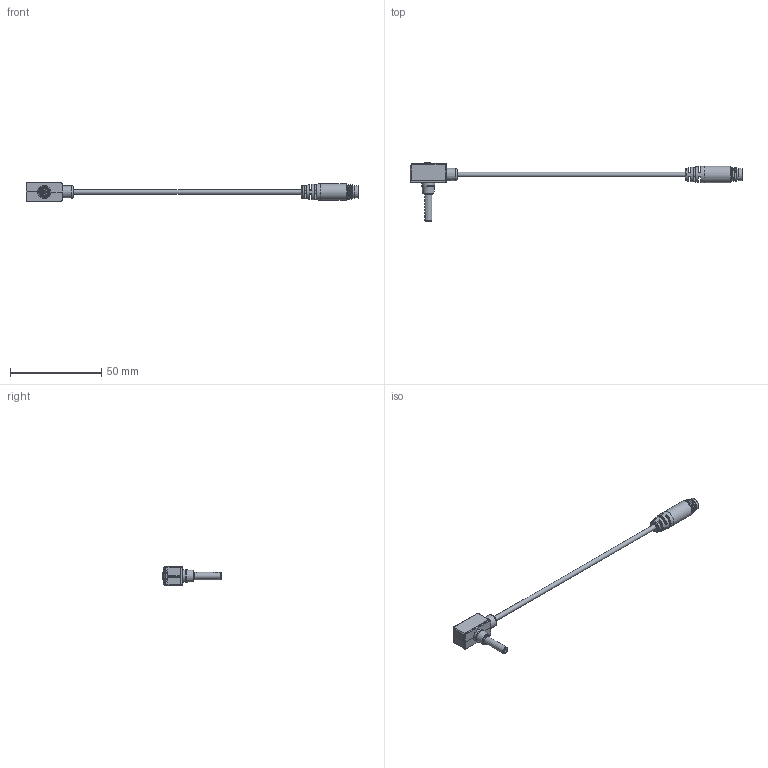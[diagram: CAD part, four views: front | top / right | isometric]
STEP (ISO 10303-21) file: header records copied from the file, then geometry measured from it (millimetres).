
FILE_DESCRIPTION(('STEP AP214'),'1');
FILE_NAME('82T4-N(P)C.stp','2026-04-16T04:59:54',(' '),(' '),'Spatial InterOp 3D',' ',' ');
FILE_SCHEMA(('AUTOMOTIVE_DESIGN { 1 0 10303 214 1 1 1 1 }'));
Length unit declared in the file: millimetre
Products named in the file (4): MPS-※82T4-N(P)C
Assembly tree (3 placements, depth 2):
  MPS-※82T4-N(P)C
    MPS-※82T4-N(P)C
    MPS-※82T4-N(P)C
    MPS-※82T4-N(P)C
Bounding box: 182 x 32 x 10 mm (x, y, z)
Volume: 3453.7 mm3; surface area: 5448.8 mm2
Topology: 3 solids, 3 shells, 531 faces, 1432 edges, 931 vertices
Faces by surface type: plane 354, cylinder 134, cone 19, bspline 10, sphere 10, torus 4
Full cylindrical faces by diameter (mm): 1 x5, 2.5 x1, 2.6 x1, 2.7 x2, 3.8 x1, 4.6 x1, 4.7 x1, 5 x1, 5.05 x2, 5.1 x1, 5.8 x1, 6.45 x1, 6.5 x1, 6.9 x1, 7.05 x1, 7.2 x1, 9 x1
Entity records: 22380 total; most frequent: CARTESIAN_POINT 5102, ORIENTED_EDGE 2710, DIRECTION 2558, EDGE_CURVE 1355, LINE 976, VECTOR 976, VERTEX_POINT 906, AXIS2_PLACEMENT_3D 791
